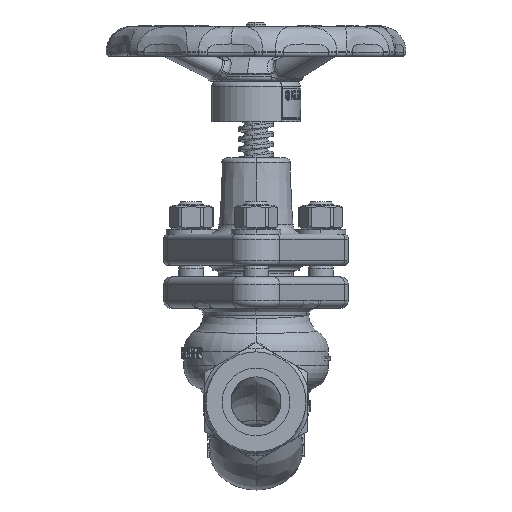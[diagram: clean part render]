
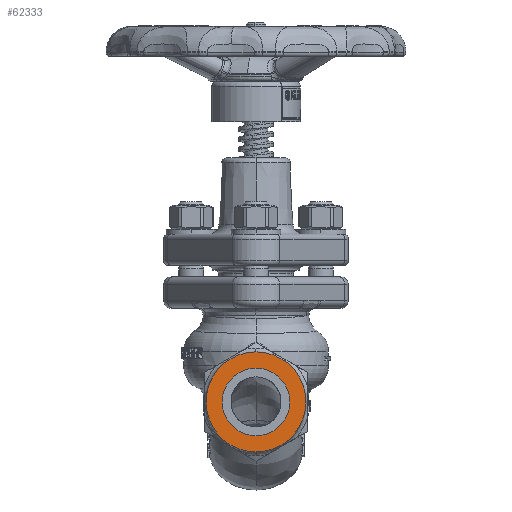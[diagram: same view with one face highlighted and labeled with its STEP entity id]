
A CAD part, left-side view. The second image highlights one B-rep face of the part: STEP entity #62333.
In plain terms, the highlighted planar face has unit normal (-1, 0, 0).
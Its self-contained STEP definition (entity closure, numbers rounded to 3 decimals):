
#9834=CARTESIAN_POINT('',(-60.,0.,0.));
#9835=DIRECTION('',(-1.,0.,0.));
#9836=DIRECTION('',(0.,0.,1.));
#9837=AXIS2_PLACEMENT_3D('',#9834,#9835,#9836);
#9839=CARTESIAN_POINT('',(-60.,0.,0.));
#9840=DIRECTION('',(-1.,0.,0.));
#9841=DIRECTION('',(0.,0.,-1.));
#9842=AXIS2_PLACEMENT_3D('',#9839,#9840,#9841);
#9844=CARTESIAN_POINT('',(-60.,0.,0.));
#9845=DIRECTION('',(-1.,0.,0.));
#9846=DIRECTION('',(0.,0.,-1.));
#9847=AXIS2_PLACEMENT_3D('',#9844,#9845,#9846);
#9914=CARTESIAN_POINT('',(-60.,0.,0.));
#9915=DIRECTION('',(-1.,0.,0.));
#9916=DIRECTION('',(0.,0.,1.));
#9917=AXIS2_PLACEMENT_3D('',#9914,#9915,#9916);
#35638=CARTESIAN_POINT('',(-60.,0.,-20.004));
#35639=CARTESIAN_POINT('',(-60.,0.,20.004));
#35640=VERTEX_POINT('',#35638);
#35641=VERTEX_POINT('',#35639);
#35756=CARTESIAN_POINT('',(-60.,0.,13.55));
#35757=VERTEX_POINT('',#35756);
#35760=CARTESIAN_POINT('',(-60.,0.,-13.55));
#35761=VERTEX_POINT('',#35760);
#62318=CARTESIAN_POINT('',(-60.,0.,0.));
#62319=DIRECTION('',(-1.,0.,0.));
#62320=DIRECTION('',(0.,0.,1.));
#62321=AXIS2_PLACEMENT_3D('',#62318,#62319,#62320);
#62322=PLANE('',#62321);
#62324=ORIENTED_EDGE('',*,*,#62323,.F.);
#62326=ORIENTED_EDGE('',*,*,#62325,.F.);
#62327=EDGE_LOOP('',(#62324,#62326));
#62328=FACE_OUTER_BOUND('',#62327,.F.);
#62329=ORIENTED_EDGE('',*,*,#62313,.T.);
#62330=ORIENTED_EDGE('',*,*,#62297,.T.);
#62331=EDGE_LOOP('',(#62329,#62330));
#62332=FACE_BOUND('',#62331,.F.);
#9838=CIRCLE('',#9837,13.55);
#9843=CIRCLE('',#9842,13.55);
#9848=CIRCLE('',#9847,20.004);
#9918=CIRCLE('',#9917,20.004);
#62297=EDGE_CURVE('',#35761,#35757,#9843,.T.);
#62313=EDGE_CURVE('',#35757,#35761,#9838,.T.);
#62323=EDGE_CURVE('',#35640,#35641,#9848,.T.);
#62325=EDGE_CURVE('',#35641,#35640,#9918,.T.);
#62333=ADVANCED_FACE('',(#62328,#62332),#62322,.T.);
